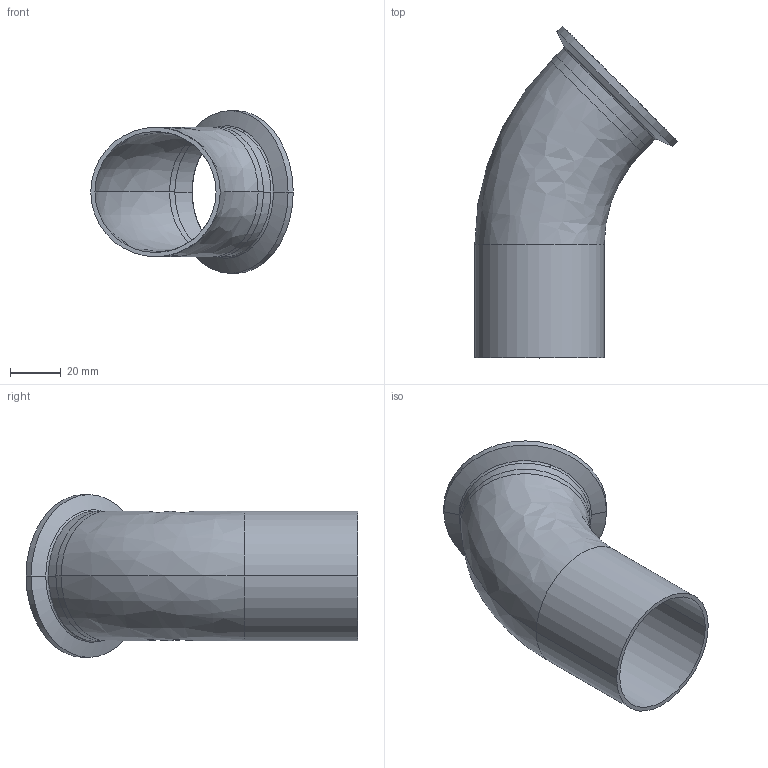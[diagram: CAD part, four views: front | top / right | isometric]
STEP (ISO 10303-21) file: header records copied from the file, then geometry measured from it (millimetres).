
FILE_DESCRIPTION (( 'STEP AP214' ), '1' );
FILE_NAME ('TE2KC6L2.0-...STEP', '2016-05-22T06:30:23', ( 'eran' ), ( '' ), 'SwSTEP 2.0', 'SolidWorks 2016', '' );
FILE_SCHEMA (( 'AUTOMOTIVE_DESIGN' ));
Length unit declared in the file: millimetre
Products named in the file (1): TE2KC6L2.0-..
Bounding box: 79.46 x 130.26 x 63.91 mm (x, y, z)
Volume: 34406.4 mm3; surface area: 39501.2 mm2
Topology: 2 solids, 2 shells, 39 faces, 92 edges, 58 vertices
Faces by surface type: bspline 14, cylinder 14, cone 6, plane 5
Entity records: 1801 total; most frequent: CARTESIAN_POINT 858, DIRECTION 204, ORIENTED_EDGE 184, EDGE_CURVE 92, AXIS2_PLACEMENT_3D 92, CIRCLE 66, VERTEX_POINT 58, EDGE_LOOP 44
